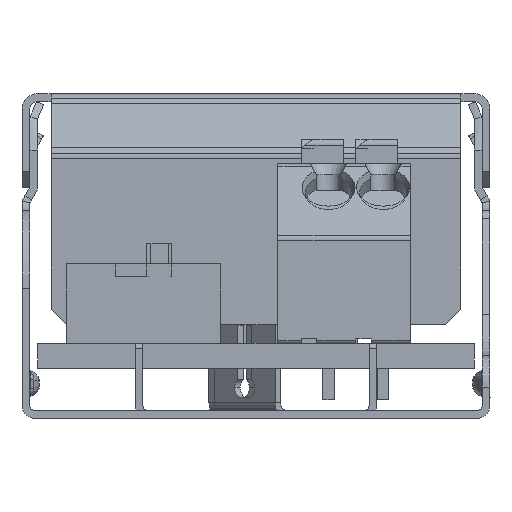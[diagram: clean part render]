
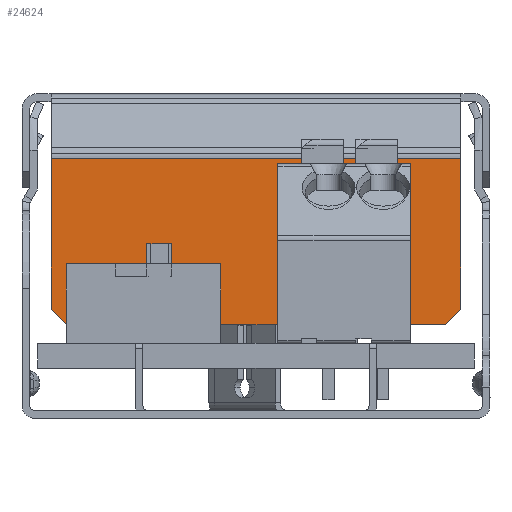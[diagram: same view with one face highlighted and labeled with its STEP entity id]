
A CAD part, front view. The second image highlights one B-rep face of the part: STEP entity #24624.
In plain terms, the highlighted planar face has unit normal (0, -1, 0).
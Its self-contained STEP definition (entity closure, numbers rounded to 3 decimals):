
#21683=DIRECTION('',(0.,0.,1.));
#21684=VECTOR('',#21683,9.65);
#21685=CARTESIAN_POINT('',(2.097,-55.778,
-98.407));
#21686=LINE('',#21685,#21684);
#21755=DIRECTION('',(1.,0.,0.));
#21756=VECTOR('',#21755,26.271);
#21757=CARTESIAN_POINT('',(2.097,-55.778,
-88.757));
#21758=LINE('',#21757,#21756);
#21763=DIRECTION('',(0.707,0.,-0.707));
#21764=VECTOR('',#21763,1.414);
#21765=CARTESIAN_POINT('',(2.097,-55.778,
-98.407));
#21766=LINE('',#21765,#21764);
#21767=DIRECTION('',(0.,0.,1.));
#21768=VECTOR('',#21767,9.65);
#21769=CARTESIAN_POINT('',(28.368,-55.778,
-98.407));
#21770=LINE('',#21769,#21768);
#21771=DIRECTION('',(0.707,0.,0.707));
#21772=VECTOR('',#21771,1.414);
#21773=CARTESIAN_POINT('',(27.368,-55.778,
-99.407));
#21774=LINE('',#21773,#21772);
#21775=DIRECTION('',(-1.,0.,0.));
#21776=VECTOR('',#21775,24.271);
#21777=CARTESIAN_POINT('',(27.368,-55.778,
-99.407));
#21778=LINE('',#21777,#21776);
#23319=CARTESIAN_POINT('',(2.097,-55.778,
-98.407));
#23320=CARTESIAN_POINT('',(2.097,-55.778,
-88.757));
#23321=VERTEX_POINT('',#23319);
#23322=VERTEX_POINT('',#23320);
#23335=CARTESIAN_POINT('',(28.368,-55.778,
-98.407));
#23336=VERTEX_POINT('',#23335);
#23337=CARTESIAN_POINT('',(28.368,-55.778,
-88.757));
#23338=VERTEX_POINT('',#23337);
#23587=CARTESIAN_POINT('',(27.368,-55.778,
-99.407));
#23588=VERTEX_POINT('',#23587);
#23589=CARTESIAN_POINT('',(3.097,-55.778,
-99.407));
#23590=VERTEX_POINT('',#23589);
#24608=CARTESIAN_POINT('',(31.228,-55.778,
-87.459));
#24609=DIRECTION('',(0.,-1.,0.));
#24610=DIRECTION('',(1.,0.,0.));
#24611=AXIS2_PLACEMENT_3D('',#24608,#24609,#24610);
#24612=PLANE('',#24611);
#24614=ORIENTED_EDGE('',*,*,#24613,.F.);
#24615=ORIENTED_EDGE('',*,*,#24513,.T.);
#24616=ORIENTED_EDGE('',*,*,#24600,.T.);
#24617=ORIENTED_EDGE('',*,*,#24472,.F.);
#24619=ORIENTED_EDGE('',*,*,#24618,.F.);
#24621=ORIENTED_EDGE('',*,*,#24620,.T.);
#24622=EDGE_LOOP('',(#24614,#24615,#24616,#24617,#24619,#24621));
#24623=FACE_OUTER_BOUND('',#24622,.F.);
#24624=ADVANCED_FACE('',(#24623),#24612,.T.);
#24472=EDGE_CURVE('',#23336,#23338,#21770,.T.);
#24513=EDGE_CURVE('',#23321,#23322,#21686,.T.);
#24600=EDGE_CURVE('',#23322,#23338,#21758,.T.);
#24613=EDGE_CURVE('',#23321,#23590,#21766,.T.);
#24618=EDGE_CURVE('',#23588,#23336,#21774,.T.);
#24620=EDGE_CURVE('',#23588,#23590,#21778,.T.);
